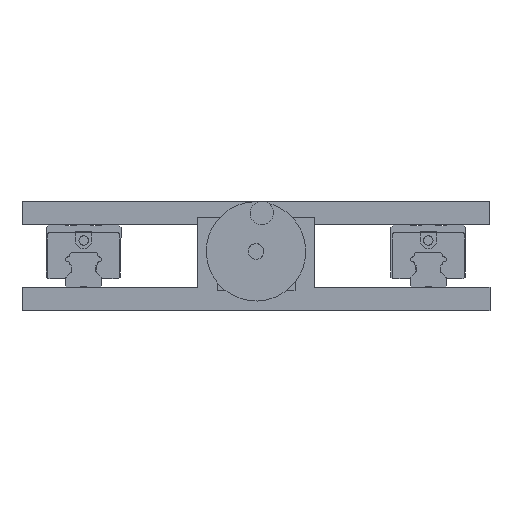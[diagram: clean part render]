
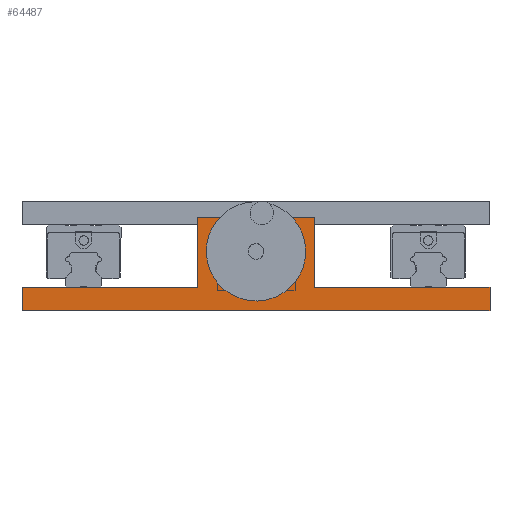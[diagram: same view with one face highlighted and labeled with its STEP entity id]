
A CAD part, front view. The second image highlights one B-rep face of the part: STEP entity #64487.
In plain terms, the highlighted planar face has unit normal (0, -1, 0).
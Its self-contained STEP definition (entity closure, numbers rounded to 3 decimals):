
#233 = CARTESIAN_POINT ( 'NONE',  ( -150., -516.5, 0. ) ) ;
#981 = CARTESIAN_POINT ( 'NONE',  ( 150., -516.5, 15. ) ) ;
#1970 = VECTOR ( 'NONE', #76426, 1000. ) ;
#2510 = EDGE_LOOP ( 'NONE', ( #73194, #38516 ) ) ;
#2631 = EDGE_CURVE ( 'NONE', #14803, #79167, #71257, .T. ) ;
#5979 = LINE ( 'NONE', #27837, #63285 ) ;
#6184 = EDGE_CURVE ( 'NONE', #32632, #65795, #64338, .T. ) ;
#7296 = DIRECTION ( 'NONE',  ( 0., 0., 1. ) ) ;
#9111 = DIRECTION ( 'NONE',  ( 0., 0., -1. ) ) ;
#11859 = EDGE_CURVE ( 'NONE', #54871, #43969, #5979, .T. ) ;
#12225 = VERTEX_POINT ( 'NONE', #43807 ) ;
#12599 = LINE ( 'NONE', #57721, #1970 ) ;
#12721 = CARTESIAN_POINT ( 'NONE',  ( 150., -516.5, 15. ) ) ;
#14053 = LINE ( 'NONE', #233, #72288 ) ;
#14087 = AXIS2_PLACEMENT_3D ( 'NONE', #49669, #38211, #7296 ) ;
#14803 = VERTEX_POINT ( 'NONE', #70110 ) ;
#16836 = VERTEX_POINT ( 'NONE', #23814 ) ;
#19621 = VECTOR ( 'NONE', #27658, 1000. ) ;
#19712 = DIRECTION ( 'NONE',  ( 0., 0., 1. ) ) ;
#19868 = LINE ( 'NONE', #64183, #69436 ) ;
#20959 = ORIENTED_EDGE ( 'NONE', *, *, #11859, .F. ) ;
#23079 = EDGE_CURVE ( 'NONE', #16836, #54871, #12599, .T. ) ;
#23814 = CARTESIAN_POINT ( 'NONE',  ( 37.5, -516.5, 60. ) ) ;
#25647 = CARTESIAN_POINT ( 'NONE',  ( 0., -516.5, 38. ) ) ;
#25649 = CARTESIAN_POINT ( 'NONE',  ( -37.5, -516.5, 15. ) ) ;
#27276 = CARTESIAN_POINT ( 'NONE',  ( 37.5, -516.5, 15. ) ) ;
#27658 = DIRECTION ( 'NONE',  ( 1., 0., 0. ) ) ;
#27837 = CARTESIAN_POINT ( 'NONE',  ( -150., -516.5, 15. ) ) ;
#28064 = ORIENTED_EDGE ( 'NONE', *, *, #40703, .T. ) ;
#28851 = DIRECTION ( 'NONE',  ( 0., 0., -1. ) ) ;
#28993 = ORIENTED_EDGE ( 'NONE', *, *, #6184, .F. ) ;
#29122 = AXIS2_PLACEMENT_3D ( 'NONE', #63964, #57199, #19712 ) ;
#29766 = EDGE_CURVE ( 'NONE', #59535, #73897, #14053, .T. ) ;
#30267 = CARTESIAN_POINT ( 'NONE',  ( -150., -516.5, 15. ) ) ;
#31627 = DIRECTION ( 'NONE',  ( 0., 0., 1. ) ) ;
#32632 = VERTEX_POINT ( 'NONE', #75043 ) ;
#33317 = ORIENTED_EDGE ( 'NONE', *, *, #51996, .F. ) ;
#34636 = VECTOR ( 'NONE', #56147, 1000. ) ;
#38211 = DIRECTION ( 'NONE',  ( 0., 1., 0. ) ) ;
#38516 = ORIENTED_EDGE ( 'NONE', *, *, #68480, .F. ) ;
#40002 = VECTOR ( 'NONE', #41020, 1000. ) ;
#40703 = EDGE_CURVE ( 'NONE', #12225, #65795, #74451, .T. ) ;
#41020 = DIRECTION ( 'NONE',  ( 1., 0., 0. ) ) ;
#43807 = CARTESIAN_POINT ( 'NONE',  ( -37.5, -516.5, 60. ) ) ;
#43868 = DIRECTION ( 'NONE',  ( 0., -1., 0. ) ) ;
#43969 = VERTEX_POINT ( 'NONE', #981 ) ;
#46506 = EDGE_CURVE ( 'NONE', #12225, #16836, #70984, .T. ) ;
#47787 = AXIS2_PLACEMENT_3D ( 'NONE', #25647, #43868, #31627 ) ;
#49042 = FACE_BOUND ( 'NONE', #2510, .T. ) ;
#49669 = CARTESIAN_POINT ( 'NONE',  ( -150., -516.5, 15. ) ) ;
#50187 = VECTOR ( 'NONE', #28851, 1000. ) ;
#51996 = EDGE_CURVE ( 'NONE', #43969, #73897, #79206, .T. ) ;
#52274 = CARTESIAN_POINT ( 'NONE',  ( 0., -516.5, 33. ) ) ;
#52818 = ORIENTED_EDGE ( 'NONE', *, *, #46506, .F. ) ;
#54871 = VERTEX_POINT ( 'NONE', #27276 ) ;
#55852 = FACE_OUTER_BOUND ( 'NONE', #79446, .T. ) ;
#56147 = DIRECTION ( 'NONE',  ( 0., 0., -1. ) ) ;
#56167 = PLANE ( 'NONE',  #14087 ) ;
#57199 = DIRECTION ( 'NONE',  ( 0., -1., 0. ) ) ;
#57721 = CARTESIAN_POINT ( 'NONE',  ( 37.5, -516.5, 60. ) ) ;
#57924 = EDGE_CURVE ( 'NONE', #32632, #59535, #19868, .T. ) ;
#59535 = VERTEX_POINT ( 'NONE', #74426 ) ;
#59869 = ORIENTED_EDGE ( 'NONE', *, *, #23079, .F. ) ;
#60783 = ORIENTED_EDGE ( 'NONE', *, *, #57924, .T. ) ;
#62279 = CIRCLE ( 'NONE', #47787, 5. ) ;
#62876 = DIRECTION ( 'NONE',  ( 1., 0., 0. ) ) ;
#63285 = VECTOR ( 'NONE', #78525, 1000. ) ;
#63964 = CARTESIAN_POINT ( 'NONE',  ( 0., -516.5, 38. ) ) ;
#64183 = CARTESIAN_POINT ( 'NONE',  ( -150., -516.5, 15. ) ) ;
#64338 = LINE ( 'NONE', #30267, #19621 ) ;
#64487 = ADVANCED_FACE ( 'NONE', ( #49042, #55852 ), #56167, .F. ) ;
#64629 = ORIENTED_EDGE ( 'NONE', *, *, #29766, .T. ) ;
#65495 = CARTESIAN_POINT ( 'NONE',  ( -37.5, -516.5, 60. ) ) ;
#65795 = VERTEX_POINT ( 'NONE', #25649 ) ;
#68480 = EDGE_CURVE ( 'NONE', #79167, #14803, #62279, .T. ) ;
#69436 = VECTOR ( 'NONE', #9111, 1000. ) ;
#70110 = CARTESIAN_POINT ( 'NONE',  ( 0., -516.5, 43. ) ) ;
#70984 = LINE ( 'NONE', #77082, #40002 ) ;
#71257 = CIRCLE ( 'NONE', #29122, 5. ) ;
#72288 = VECTOR ( 'NONE', #62876, 1000. ) ;
#73194 = ORIENTED_EDGE ( 'NONE', *, *, #2631, .F. ) ;
#73897 = VERTEX_POINT ( 'NONE', #78925 ) ;
#74426 = CARTESIAN_POINT ( 'NONE',  ( -150., -516.5, 0. ) ) ;
#74451 = LINE ( 'NONE', #65495, #50187 ) ;
#75043 = CARTESIAN_POINT ( 'NONE',  ( -150., -516.5, 15. ) ) ;
#76426 = DIRECTION ( 'NONE',  ( 0., 0., -1. ) ) ;
#77082 = CARTESIAN_POINT ( 'NONE',  ( -37.5, -516.5, 60. ) ) ;
#78525 = DIRECTION ( 'NONE',  ( 1., 0., 0. ) ) ;
#78925 = CARTESIAN_POINT ( 'NONE',  ( 150., -516.5, 0. ) ) ;
#79167 = VERTEX_POINT ( 'NONE', #52274 ) ;
#79206 = LINE ( 'NONE', #12721, #34636 ) ;
#79446 = EDGE_LOOP ( 'NONE', ( #64629, #33317, #20959, #59869, #52818, #28064, #28993, #60783 ) ) ;
